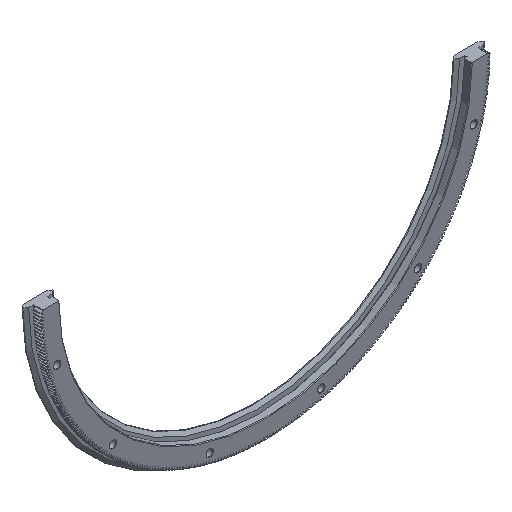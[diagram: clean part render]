
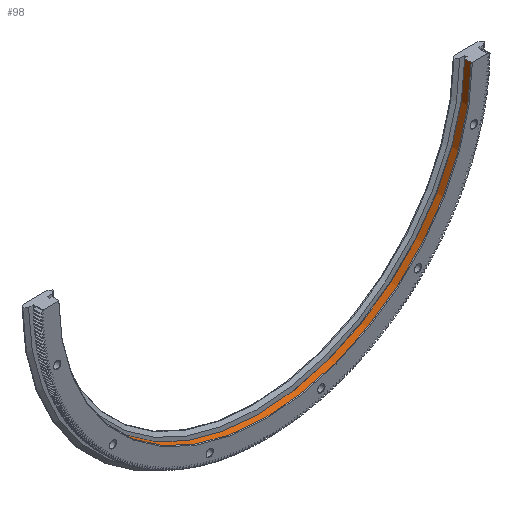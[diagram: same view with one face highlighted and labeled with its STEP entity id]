
A CAD part, isometric view. The second image highlights one B-rep face of the part: STEP entity #98.
In plain terms, the highlighted cylindrical face has radius 167.8 mm (diameter 335.6 mm), a partial arc.
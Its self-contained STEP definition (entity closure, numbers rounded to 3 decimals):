
#98 = ADVANCED_FACE( '', ( #1541 ), #1542, .F. );
#1541 = FACE_OUTER_BOUND( '', #4394, .T. );
#1542 = CYLINDRICAL_SURFACE( '', #4395, 167.8 );
#4394 = EDGE_LOOP( '', ( #7834, #7835, #7836, #7837 ) );
#4395 = AXIS2_PLACEMENT_3D( '', #7838, #7839, #7840 );
#7834 = ORIENTED_EDGE( '', *, *, #19394, .F. );
#7835 = ORIENTED_EDGE( '', *, *, #18868, .T. );
#7836 = ORIENTED_EDGE( '', *, *, #19395, .T. );
#7837 = ORIENTED_EDGE( '', *, *, #19386, .T. );
#7838 = CARTESIAN_POINT( '', ( 0., 0., 0. ) );
#7839 = DIRECTION( '', ( 0., 1., 0. ) );
#7840 = DIRECTION( '', ( 0., 0., -1. ) );
#18868 = EDGE_CURVE( '', #22602, #22600, #22603, .T. );
#19386 = EDGE_CURVE( '', #23622, #23620, #23623, .F. );
#19394 = EDGE_CURVE( '', #22602, #23620, #23636, .T. );
#19395 = EDGE_CURVE( '', #22600, #23622, #23637, .T. );
#22600 = VERTEX_POINT( '', #28672 );
#22602 = VERTEX_POINT( '', #28677 );
#22603 = LINE( '', #28678, #28679 );
#23620 = VERTEX_POINT( '', #29775 );
#23622 = VERTEX_POINT( '', #29778 );
#23623 = LINE( '', #29779, #29780 );
#23636 = CIRCLE( '', #29797, 167.8 );
#23637 = CIRCLE( '', #29798, 167.8 );
#28672 = CARTESIAN_POINT( '', ( -167.797, 0.5, -1. ) );
#28677 = CARTESIAN_POINT( '', ( -167.797, 5.75, -1. ) );
#28678 = CARTESIAN_POINT( '', ( -167.797, 0., -1. ) );
#28679 = VECTOR( '', #38187, 1000. );
#29775 = CARTESIAN_POINT( '', ( 167.797, 5.75, -1. ) );
#29778 = CARTESIAN_POINT( '', ( 167.797, 0.5, -1. ) );
#29779 = CARTESIAN_POINT( '', ( 167.797, 0., -1. ) );
#29780 = VECTOR( '', #39647, 1000. );
#29797 = AXIS2_PLACEMENT_3D( '', #39664, #39665, #39666 );
#29798 = AXIS2_PLACEMENT_3D( '', #39667, #39668, #39669 );
#38187 = DIRECTION( '', ( 0., -1., 0. ) );
#39647 = DIRECTION( '', ( 0., -1., 0. ) );
#39664 = CARTESIAN_POINT( '', ( 0., 5.75, 0. ) );
#39665 = DIRECTION( '', ( 0., -1., 0. ) );
#39666 = DIRECTION( '', ( 0., 0., -1. ) );
#39667 = CARTESIAN_POINT( '', ( 0., 0.5, 0. ) );
#39668 = DIRECTION( '', ( 0., -1., 0. ) );
#39669 = DIRECTION( '', ( 0., 0., -1. ) );
